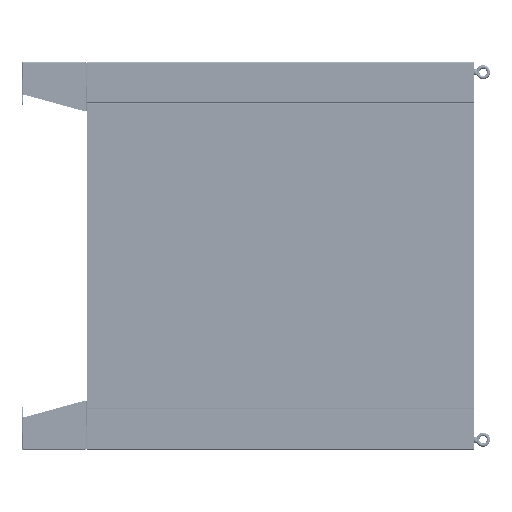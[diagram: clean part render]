
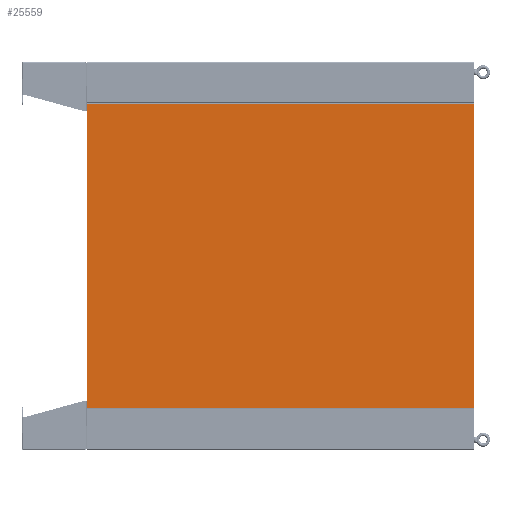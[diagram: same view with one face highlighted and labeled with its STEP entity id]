
A CAD part, left-side view. The second image highlights one B-rep face of the part: STEP entity #25559.
In plain terms, the highlighted planar face has unit normal (-1, 0, 0) as drawn and (0, 1, 0) by its records, which use the part's own axes.
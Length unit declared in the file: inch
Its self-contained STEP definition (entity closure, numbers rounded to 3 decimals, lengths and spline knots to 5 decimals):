
#24208=DIRECTION('',(-1.,0.,0.));
#24209=VECTOR('',#24208,56.622);
#24210=CARTESIAN_POINT('',(28.311,0.,35.896));
#24211=LINE('',#24210,#24209);
#24251=DIRECTION('',(0.,0.,1.));
#24252=VECTOR('',#24251,71.792);
#24253=CARTESIAN_POINT('',(28.311,0.,-35.896));
#24254=LINE('',#24253,#24252);
#24338=DIRECTION('',(-1.,0.,0.));
#24339=VECTOR('',#24338,56.622);
#24340=CARTESIAN_POINT('',(28.311,0.,-35.896));
#24341=LINE('',#24340,#24339);
#24381=DIRECTION('',(0.,0.,-1.));
#24382=VECTOR('',#24381,71.792);
#24383=CARTESIAN_POINT('',(-28.311,0.,35.896));
#24384=LINE('',#24383,#24382);
#25356=CARTESIAN_POINT('',(-28.311,0.,-35.896));
#25357=VERTEX_POINT('',#25356);
#25358=CARTESIAN_POINT('',(-28.311,0.,35.896));
#25359=VERTEX_POINT('',#25358);
#25372=CARTESIAN_POINT('',(28.311,0.,35.896));
#25373=VERTEX_POINT('',#25372);
#25374=CARTESIAN_POINT('',(28.311,0.,-35.896));
#25375=VERTEX_POINT('',#25374);
#25544=CARTESIAN_POINT('',(28.5,0.,35.896));
#25545=DIRECTION('',(0.,1.,0.));
#25546=DIRECTION('',(-1.,0.,0.));
#25547=AXIS2_PLACEMENT_3D('',#25544,#25545,#25546);
#25548=PLANE('',#25547);
#25550=ORIENTED_EDGE('',*,*,#25549,.T.);
#25552=ORIENTED_EDGE('',*,*,#25551,.T.);
#25554=ORIENTED_EDGE('',*,*,#25553,.F.);
#25556=ORIENTED_EDGE('',*,*,#25555,.T.);
#25557=EDGE_LOOP('',(#25550,#25552,#25554,#25556));
#25558=FACE_OUTER_BOUND('',#25557,.F.);
#25549=EDGE_CURVE('',#25373,#25359,#24211,.T.);
#25551=EDGE_CURVE('',#25359,#25357,#24384,.T.);
#25553=EDGE_CURVE('',#25375,#25357,#24341,.T.);
#25555=EDGE_CURVE('',#25375,#25373,#24254,.T.);
#25559=ADVANCED_FACE('',(#25558),#25548,.T.);
